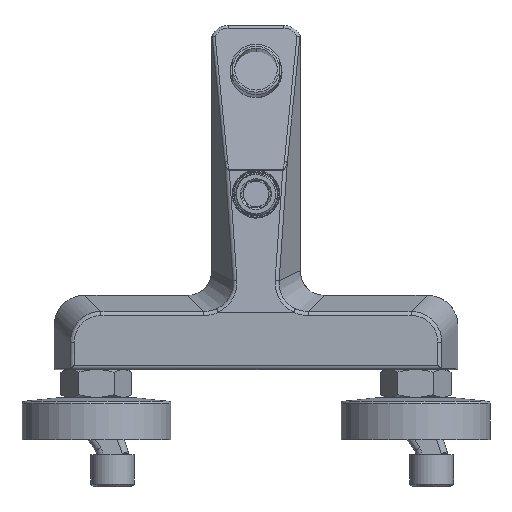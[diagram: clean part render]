
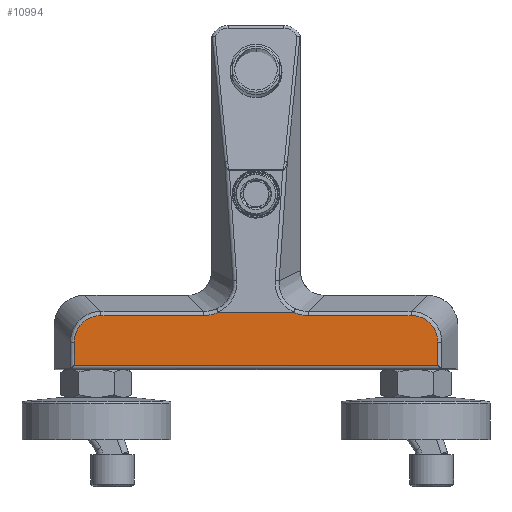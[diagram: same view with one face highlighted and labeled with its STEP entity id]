
A CAD part, front view. The second image highlights one B-rep face of the part: STEP entity #10994.
In plain terms, the highlighted planar face has unit normal (0, -1, 0).
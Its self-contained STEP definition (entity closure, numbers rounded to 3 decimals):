
#69=ELLIPSE('',#12027,14.373,12.419);
#288=(
BOUNDED_CURVE()
B_SPLINE_CURVE(3,(#36248,#36249,#36250,#36251,#36252,#36253,#36254,#36255,
#36256,#36257,#36258),.UNSPECIFIED.,.F.,.F.)
B_SPLINE_CURVE_WITH_KNOTS((4,1,1,1,1,1,1,1,4),(0.,0.129,
0.25,0.371,0.491,0.611,0.736,
0.866,1.),.UNSPECIFIED.)
CURVE()
GEOMETRIC_REPRESENTATION_ITEM()
RATIONAL_B_SPLINE_CURVE((1.115,1.115,1.115,
1.115,1.115,1.115,1.115,1.115,
1.115,1.115,1.115))
REPRESENTATION_ITEM('')
);
#290=(
BOUNDED_CURVE()
B_SPLINE_CURVE(3,(#36741,#36742,#36743,#36744,#36745,#36746,#36747,#36748,
#36749,#36750,#36751),.UNSPECIFIED.,.F.,.F.)
B_SPLINE_CURVE_WITH_KNOTS((4,1,1,1,1,1,1,1,4),(0.,0.129,
0.25,0.371,0.491,0.611,0.736,
0.866,1.),.UNSPECIFIED.)
CURVE()
GEOMETRIC_REPRESENTATION_ITEM()
RATIONAL_B_SPLINE_CURVE((1.115,1.115,1.115,
1.115,1.115,1.115,1.115,1.115,
1.115,1.115,1.115))
REPRESENTATION_ITEM('')
);
#588=PLANE('',#12026);
#1149=FACE_OUTER_BOUND('',#1819,.T.);
#1819=EDGE_LOOP('',(#9472,#9473,#9474,#9475,#9476,#9477,#9478,#9479,#9480,
#9481));
#3015=B_SPLINE_CURVE_WITH_KNOTS('',3,(#37033,#37034,#37035,#37036,#37037,
#37038,#37039),.UNSPECIFIED.,.F.,.F.,(4,3,4),(0.,0.45,
1.),.UNSPECIFIED.);
#3397=LINE('',#35908,#3904);
#3406=LINE('',#36139,#3913);
#3413=LINE('',#36755,#3920);
#3420=LINE('',#37027,#3927);
#3421=LINE('',#37031,#3928);
#3422=LINE('',#37040,#3929);
#3904=VECTOR('',#14259,170.854);
#3913=VECTOR('',#14304,10.87);
#3920=VECTOR('',#14335,10.87);
#3927=VECTOR('',#14376,48.266);
#3928=VECTOR('',#14379,10.);
#3929=VECTOR('',#14380,48.266);
#4908=VERTEX_POINT('',#35303);
#4943=VERTEX_POINT('',#35554);
#4968=VERTEX_POINT('',#36138);
#4970=VERTEX_POINT('',#36246);
#4981=VERTEX_POINT('',#36738);
#4982=VERTEX_POINT('',#36740);
#4991=VERTEX_POINT('',#37026);
#4992=VERTEX_POINT('',#37028);
#4993=VERTEX_POINT('',#37030);
#4994=VERTEX_POINT('',#37032);
#6469=EDGE_CURVE('',#4908,#4943,#3397,.T.);
#6492=EDGE_CURVE('',#4943,#4968,#3406,.T.);
#6496=EDGE_CURVE('',#4970,#4968,#288,.T.);
#6512=EDGE_CURVE('',#4981,#4982,#290,.T.);
#6515=EDGE_CURVE('',#4981,#4908,#3413,.T.);
#6533=EDGE_CURVE('',#4970,#4991,#3420,.T.);
#6534=EDGE_CURVE('',#4991,#4992,#69,.T.);
#6535=EDGE_CURVE('',#4992,#4993,#3421,.T.);
#6536=EDGE_CURVE('',#4993,#4994,#3015,.T.);
#6537=EDGE_CURVE('',#4994,#4982,#3422,.T.);
#9472=ORIENTED_EDGE('',*,*,#6469,.T.);
#9473=ORIENTED_EDGE('',*,*,#6492,.T.);
#9474=ORIENTED_EDGE('',*,*,#6496,.F.);
#9475=ORIENTED_EDGE('',*,*,#6533,.T.);
#9476=ORIENTED_EDGE('',*,*,#6534,.T.);
#9477=ORIENTED_EDGE('',*,*,#6535,.T.);
#9478=ORIENTED_EDGE('',*,*,#6536,.T.);
#9479=ORIENTED_EDGE('',*,*,#6537,.T.);
#9480=ORIENTED_EDGE('',*,*,#6512,.F.);
#9481=ORIENTED_EDGE('',*,*,#6515,.T.);
#10994=ADVANCED_FACE('',(#1149),#588,.T.);
#12026=AXIS2_PLACEMENT_3D('',#37025,#14374,#14375);
#12027=AXIS2_PLACEMENT_3D('',#37029,#14377,#14378);
#14259=DIRECTION('',(1.,0.,0.));
#14304=DIRECTION('',(0.,0.,1.));
#14335=DIRECTION('',(0.,0.,-1.));
#14374=DIRECTION('center_axis',(0.,-1.,0.));
#14375=DIRECTION('ref_axis',(0.,0.,
1.));
#14376=DIRECTION('',(-1.,0.,0.));
#14377=DIRECTION('center_axis',(0.,1.,0.));
#14378=DIRECTION('ref_axis',(-0.993,0.,0.116));
#14379=DIRECTION('',(-1.,0.,0.));
#14380=DIRECTION('',(-1.,0.,0.));
#35303=CARTESIAN_POINT('',(-20.427,7.5,-58.));
#35554=CARTESIAN_POINT('',(150.427,7.5,-58.));
#35908=CARTESIAN_POINT('',(-20.427,7.5,-58.));
#36138=CARTESIAN_POINT('',(150.427,7.5,-47.13));
#36139=CARTESIAN_POINT('',(150.427,7.5,-58.));
#36246=CARTESIAN_POINT('',(137.87,7.5,-34.573));
#36248=CARTESIAN_POINT('Ctrl Pts',(137.87,7.5,-34.573));
#36249=CARTESIAN_POINT('Ctrl Pts',(138.719,7.5,-34.573));
#36250=CARTESIAN_POINT('Ctrl Pts',(140.374,7.5,-34.731));
#36251=CARTESIAN_POINT('Ctrl Pts',(142.729,7.5,-35.427));
#36252=CARTESIAN_POINT('Ctrl Pts',(144.856,7.5,-36.531));
#36253=CARTESIAN_POINT('Ctrl Pts',(146.721,7.5,-38.017));
#36254=CARTESIAN_POINT('Ctrl Pts',(148.282,7.5,-39.859));
#36255=CARTESIAN_POINT('Ctrl Pts',(149.484,7.5,-42.034));
#36256=CARTESIAN_POINT('Ctrl Pts',(150.253,7.5,-44.497));
#36257=CARTESIAN_POINT('Ctrl Pts',(150.427,7.5,-46.245));
#36258=CARTESIAN_POINT('Ctrl Pts',(150.427,7.5,-47.13));
#36738=CARTESIAN_POINT('',(-20.427,7.5,-47.13));
#36740=CARTESIAN_POINT('',(-7.87,7.5,-34.573));
#36741=CARTESIAN_POINT('Ctrl Pts',(-20.427,7.5,-47.13));
#36742=CARTESIAN_POINT('Ctrl Pts',(-20.427,7.5,-46.28));
#36743=CARTESIAN_POINT('Ctrl Pts',(-20.269,7.5,-44.625));
#36744=CARTESIAN_POINT('Ctrl Pts',(-19.572,7.5,-42.27));
#36745=CARTESIAN_POINT('Ctrl Pts',(-18.469,7.5,-40.143));
#36746=CARTESIAN_POINT('Ctrl Pts',(-16.983,7.5,-38.278));
#36747=CARTESIAN_POINT('Ctrl Pts',(-15.141,7.5,-36.718));
#36748=CARTESIAN_POINT('Ctrl Pts',(-12.966,7.5,-35.516));
#36749=CARTESIAN_POINT('Ctrl Pts',(-10.504,7.5,-34.747));
#36750=CARTESIAN_POINT('Ctrl Pts',(-8.756,7.5,-34.573));
#36751=CARTESIAN_POINT('Ctrl Pts',(-7.87,7.5,-34.573));
#36755=CARTESIAN_POINT('',(-20.427,7.5,-47.13));
#37025=CARTESIAN_POINT('Origin',(153.844,7.5,-45.519));
#37026=CARTESIAN_POINT('',(89.604,7.5,-34.573));
#37027=CARTESIAN_POINT('',(137.87,7.5,-34.573));
#37028=CARTESIAN_POINT('',(82.629,7.5,-33.038));
#37029=CARTESIAN_POINT('Origin',(89.104,7.5,-22.126));
#37030=CARTESIAN_POINT('',(47.366,7.5,-33.039));
#37031=CARTESIAN_POINT('',(118.661,7.5,-33.038));
#37032=CARTESIAN_POINT('',(40.396,7.5,-34.573));
#37033=CARTESIAN_POINT('Ctrl Pts',(47.366,7.5,-33.039));
#37034=CARTESIAN_POINT('Ctrl Pts',(46.388,7.5,-33.496));
#37035=CARTESIAN_POINT('Ctrl Pts',(45.364,7.5,-33.854));
#37036=CARTESIAN_POINT('Ctrl Pts',(44.314,7.5,-34.109));
#37037=CARTESIAN_POINT('Ctrl Pts',(43.033,7.5,-34.419));
#37038=CARTESIAN_POINT('Ctrl Pts',(41.715,7.5,-34.573));
#37039=CARTESIAN_POINT('Ctrl Pts',(40.396,7.5,-34.573));
#37040=CARTESIAN_POINT('',(40.396,7.5,-34.573));
